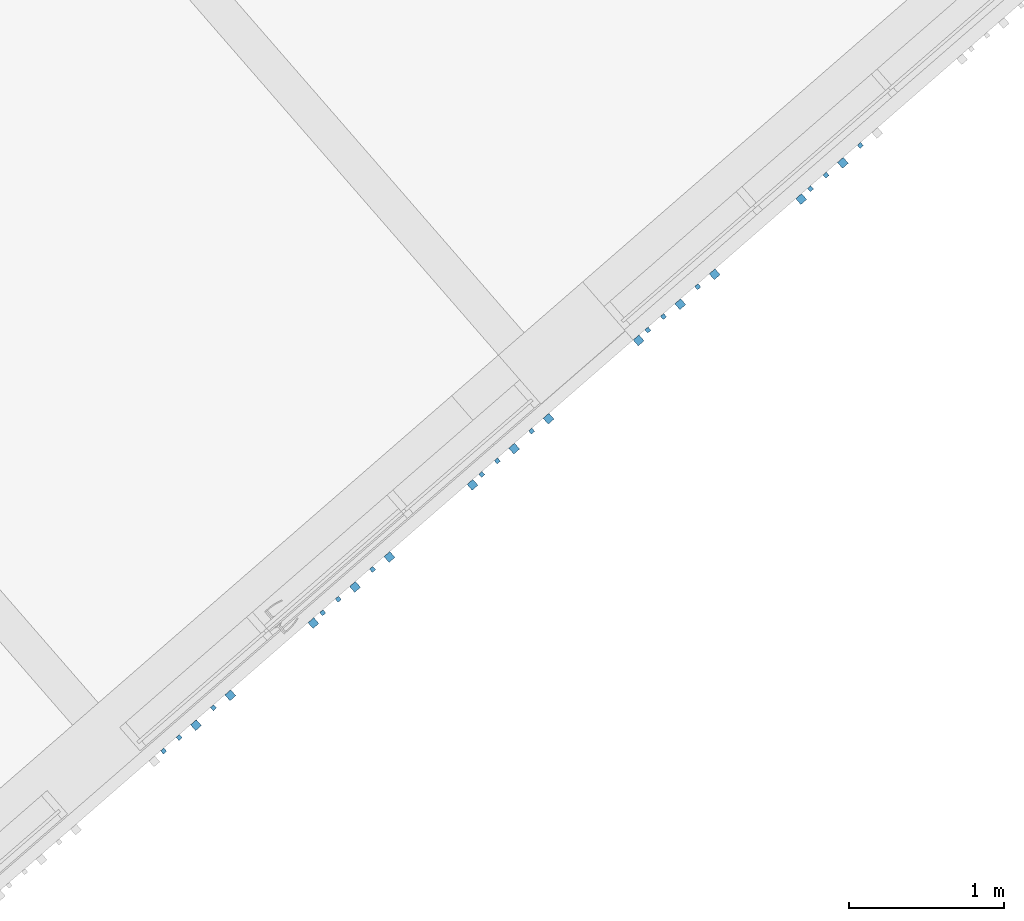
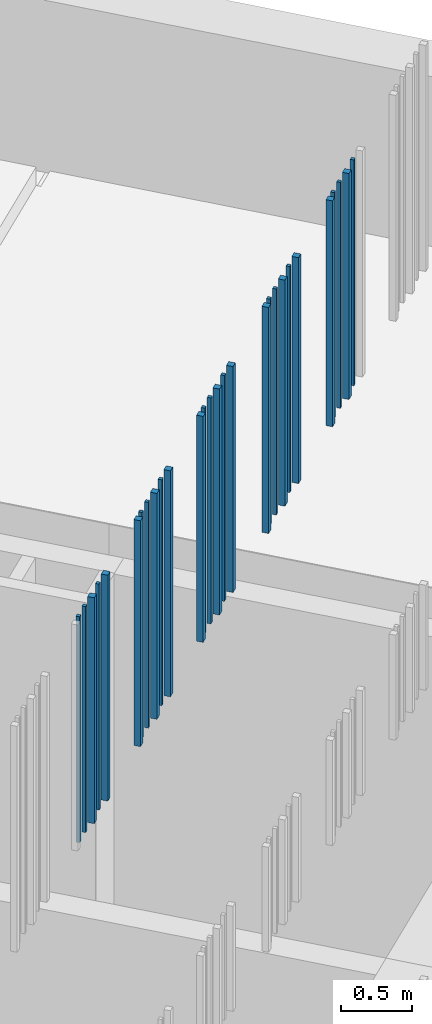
# One storey, part 70 of 124: 28 walls.
"""IFC2X3 building model written with IfcOpenShell, lengths in millimetres."""

from ifc_helpers import new_model, entity, si_unit, converted_unit, derived_unit, money_unit, direction, frame, origin_with_axes, place, context, subcontext, project, spatial, faceted_brep, material, type_object, element, save


model = new_model("IFC2X3")

# Units and contexts
model_context = context("Model", 3, precision=1e-05, world=origin_with_axes(), true_north=direction((0.0, 1.0)))
body_context = subcontext(model_context, "Body", "Model", "MODEL_VIEW")
ifc_project = project(units=[si_unit("LENGTHUNIT", "METRE", prefix="MILLI"), si_unit("AREAUNIT", "SQUARE_METRE"), si_unit("VOLUMEUNIT", "CUBIC_METRE"), converted_unit("PLANEANGLEUNIT", "DEGREE", entity("IfcPlaneAngleMeasure", 0.0174532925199), si_unit("PLANEANGLEUNIT", "RADIAN"), dimensions=[0, 0, 0, 0, 0, 0, 0]), si_unit("SOLIDANGLEUNIT", "STERADIAN"), money_unit("EUR"), converted_unit("TIMEUNIT", "Year", entity("IfcTimeMeasure", 31556926.0), si_unit("TIMEUNIT", "SECOND"), dimensions=[0, 0, 1, 0, 0, 0, 0]), si_unit("MASSUNIT", "GRAM", prefix="KILO"), si_unit("THERMODYNAMICTEMPERATUREUNIT", "DEGREE_CELSIUS"), si_unit("LUMINOUSINTENSITYUNIT", "LUMEN"), si_unit("ENERGYUNIT", "JOULE", prefix="MEGA"), derived_unit("THERMALCONDUCTANCEUNIT", [(si_unit("POWERUNIT", "WATT"), 1), (si_unit("LENGTHUNIT", "METRE"), -1), (si_unit("THERMODYNAMICTEMPERATUREUNIT", "KELVIN"), -1)]), derived_unit("SPECIFICHEATCAPACITYUNIT", [(si_unit("ENERGYUNIT", "JOULE"), 1), (si_unit("MASSUNIT", "GRAM", prefix="KILO"), -1), (si_unit("THERMODYNAMICTEMPERATUREUNIT", "KELVIN"), -1)]), derived_unit("MASSDENSITYUNIT", [(si_unit("MASSUNIT", "GRAM", prefix="KILO"), 1), (si_unit("VOLUMEUNIT", "CUBIC_METRE"), -1)])], contexts=[model_context])

# Site, building, storey
site_placement = place(None, origin_with_axes())
site = spatial("IfcSite", under=ifc_project, at=site_placement, Name="Site", CompositionType="ELEMENT")
building_placement = place(site_placement, origin_with_axes())
building = spatial("IfcBuilding", under=site, at=building_placement, Name="Building", CompositionType="ELEMENT")
storey_placement = place(building_placement, frame((0.0, 0.0, -1615.0), z_axis=(0.0, 0.0, 1.0), x_axis=(1.0, 0.0, 0.0)))
storey = spatial("IfcBuildingStorey", under=building, at=storey_placement, Name="0  korrus", CompositionType="ELEMENT", Elevation=-1615.0)

# Walls
ifc_material = material(Name="Site specified")
wall_type = type_object("IfcWallType", Name="Puitfassaadi ribistik", PredefinedType="NOTDEFINED")
for number, where, z_axis, x_axis, name in (
    (1, (164339.381525, 87488.6615175, 9530.0), (0.0, 0.0, 1.0), (-0.754709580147, -0.656059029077, 0.0), "Site specified"),
    (2, (164608.062387, 87722.2222276, 9530.0), (0.0, 0.0, 1.0), (-0.754709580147, -0.656059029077, 0.0), "Site specified"),
):
    element("IfcWall", number, at=place(storey_placement, frame(where, z_axis=z_axis, x_axis=x_axis)), inside=storey, type_object=wall_type, material=ifc_material, Name=name, context=body_context, shape_type="Brep", body=[
        faceted_brep([(25.0, 25.0, 1950.0), (25.0, 25.0, 0.0), (-25.0, 25.0, 0.0), (-25.0, 25.0, 1950.0), (25.0, -25.0, 1950.0), (25.0, -25.0, 0.0), (-25.0, -25.0, 0.0), (-25.0, -25.0, 1950.0)], [[[0, 1, 2, 3]], [[4, 5, 1, 0]], [[2, 1, 5, 6]], [[3, 2, 6, 7]], [[4, 0, 3, 7]], [[7, 6, 5, 4]]]),
    ])
wall_1_placement = place(storey_placement, frame((163694.437651, 86942.5955039, 9530.0), z_axis=(0.0, 0.0, 1.0), x_axis=(-0.754709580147, -0.656059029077, 0.0)))
element("IfcWall", 3, at=wall_1_placement, inside=storey, type_object=wall_type, material=ifc_material, Name="Site specified", context=body_context, shape_type="Brep", body=[
    faceted_brep([(14.0, 14.0, 1950.0), (14.0, 14.0, 0.0), (-14.0, 14.0, 0.0), (-14.0, 14.0, 1950.0), (14.0, -14.0, 1950.0), (14.0, -14.0, 0.0), (-14.0, -14.0, 0.0), (-14.0, -14.0, 1950.0)], [[[0, 1, 2, 3]], [[4, 5, 1, 0]], [[2, 1, 5, 6]], [[3, 2, 6, 7]], [[4, 0, 3, 7]], [[7, 6, 5, 4]]]),
])
wall_2_placement = place(storey_placement, frame((164829.947002, 87915.1035807, 9530.0), z_axis=(0.0, 0.0, 1.0), x_axis=(-0.754709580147, -0.656059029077, 0.0)))
element("IfcWall", 4, at=wall_2_placement, inside=storey, type_object=wall_type, material=ifc_material, Name="Site specified", context=body_context, shape_type="Brep", body=[
    faceted_brep([(25.0, 25.0, 1950.0), (25.0, 25.0, 0.0), (-25.0, 25.0, 0.0), (-25.0, 25.0, 1950.0), (25.0, -25.0, 1950.0), (25.0, -25.0, 0.0), (-25.0, -25.0, 0.0), (-25.0, -25.0, 1950.0)], [[[0, 1, 2, 3]], [[4, 5, 1, 0]], [[2, 1, 5, 6]], [[3, 2, 6, 7]], [[4, 0, 3, 7]], [[7, 6, 5, 4]]]),
])
for number, where, z_axis, x_axis, name in (
    (5, (164499.712794, 87642.6105067, 9530.0), (0.0, 0.0, 1.0), (-0.754709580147, -0.656059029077, 0.0), "Site specified"),
    (6, (164720.84268, 87834.8357833, 9530.0), (0.0, 0.0, 1.0), (-0.754709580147, -0.656059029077, 0.0), "Site specified"),
    (7, (164399.336421, 87555.3546564, 9530.0), (0.0, 0.0, 1.0), (-0.754709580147, -0.656059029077, 0.0), "Site specified"),
):
    element("IfcWall", number, at=place(storey_placement, frame(where, z_axis=z_axis, x_axis=x_axis)), inside=storey, type_object=wall_type, material=ifc_material, Name=name, context=body_context, shape_type="Brep", body=[
        faceted_brep([(14.0, 14.0, 1950.0), (14.0, 14.0, 0.0), (-14.0, 14.0, 0.0), (-14.0, 14.0, 1950.0), (14.0, -14.0, 1950.0), (14.0, -14.0, 0.0), (-14.0, -14.0, 0.0), (-14.0, -14.0, 1950.0)], [[[0, 1, 2, 3]], [[4, 5, 1, 0]], [[2, 1, 5, 6]], [[3, 2, 6, 7]], [[4, 0, 3, 7]], [[7, 6, 5, 4]]]),
    ])
wall_3_placement = place(storey_placement, frame((163803.541973, 87022.8633013, 9530.0), z_axis=(0.0, 0.0, 1.0), x_axis=(-0.754709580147, -0.656059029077, 0.0)))
element("IfcWall", 8, at=wall_3_placement, inside=storey, type_object=wall_type, material=ifc_material, Name="Site specified", context=body_context, shape_type="Brep", body=[
    faceted_brep([(25.0, 25.0, 1950.0), (25.0, 25.0, 0.0), (-25.0, 25.0, 0.0), (-25.0, 25.0, 1950.0), (25.0, -25.0, 1950.0), (25.0, -25.0, 0.0), (-25.0, -25.0, 0.0), (-25.0, -25.0, 1950.0)], [[[0, 1, 2, 3]], [[4, 5, 1, 0]], [[2, 1, 5, 6]], [[3, 2, 6, 7]], [[4, 0, 3, 7]], [[7, 6, 5, 4]]]),
])
wall_4_placement = place(storey_placement, frame((163473.307765, 86750.3702273, 9530.0), z_axis=(0.0, 0.0, 1.0), x_axis=(-0.754709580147, -0.656059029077, 0.0)))
element("IfcWall", 9, at=wall_4_placement, inside=storey, type_object=wall_type, material=ifc_material, Name="Site specified", context=body_context, shape_type="Brep", body=[
    faceted_brep([(14.0, 14.0, 1950.0), (14.0, 14.0, 0.0), (-14.0, 14.0, 0.0), (-14.0, 14.0, 1950.0), (14.0, -14.0, 1950.0), (14.0, -14.0, 0.0), (-14.0, -14.0, 0.0), (-14.0, -14.0, 1950.0)], [[[0, 1, 2, 3]], [[4, 5, 1, 0]], [[2, 1, 5, 6]], [[3, 2, 6, 7]], [[4, 0, 3, 7]], [[7, 6, 5, 4]]]),
])
wall_5_placement = place(storey_placement, frame((163581.657358, 86829.9819482, 9530.0), z_axis=(0.0, 0.0, 1.0), x_axis=(-0.754709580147, -0.656059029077, 0.0)))
element("IfcWall", 10, at=wall_5_placement, inside=storey, type_object=wall_type, material=ifc_material, Name="Site specified", context=body_context, shape_type="Brep", body=[
    faceted_brep([(25.0, 25.0, 1950.0), (25.0, 25.0, 0.0), (-25.0, 25.0, 0.0), (-25.0, 25.0, 1950.0), (25.0, -25.0, 1950.0), (25.0, -25.0, 0.0), (-25.0, -25.0, 0.0), (-25.0, -25.0, 1950.0)], [[[0, 1, 2, 3]], [[4, 5, 1, 0]], [[2, 1, 5, 6]], [[3, 2, 6, 7]], [[4, 0, 3, 7]], [[7, 6, 5, 4]]]),
])
for number, where, z_axis, x_axis, name in (
    (11, (165425.727466, 88447.5827786, 9530.0), (0.0, 0.0, 1.0), (-0.754709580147, -0.656059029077, 0.0), "Site specified"),
    (12, (165526.10384, 88534.8386289, 9530.0), (0.0, 0.0, 1.0), (-0.754709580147, -0.656059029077, 0.0), "Site specified"),
):
    element("IfcWall", number, at=place(storey_placement, frame(where, z_axis=z_axis, x_axis=x_axis)), inside=storey, type_object=wall_type, material=ifc_material, Name=name, context=body_context, shape_type="Brep", body=[
        faceted_brep([(14.0, 14.0, 1950.0), (14.0, 14.0, 0.0), (-14.0, 14.0, 0.0), (-14.0, 14.0, 1950.0), (14.0, -14.0, 1950.0), (14.0, -14.0, 0.0), (-14.0, -14.0, 0.0), (-14.0, -14.0, 1950.0)], [[[0, 1, 2, 3]], [[4, 5, 1, 0]], [[2, 1, 5, 6]], [[3, 2, 6, 7]], [[4, 0, 3, 7]], [[7, 6, 5, 4]]]),
    ])
for number, where, z_axis, x_axis, name in (
    (13, (165365.77257, 88380.8896396, 9530.0), (0.0, 0.0, 1.0), (-0.754709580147, -0.656059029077, 0.0), "Site specified"),
    (14, (165634.453432, 88614.4503497, 9530.0), (0.0, 0.0, 1.0), (-0.754709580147, -0.656059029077, 0.0), "Site specified"),
    (15, (165856.338047, 88807.3317028, 9530.0), (0.0, 0.0, 1.0), (-0.754709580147, -0.656059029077, 0.0), "Site specified"),
):
    element("IfcWall", number, at=place(storey_placement, frame(where, z_axis=z_axis, x_axis=x_axis)), inside=storey, type_object=wall_type, material=ifc_material, Name=name, context=body_context, shape_type="Brep", body=[
        faceted_brep([(25.0, 25.0, 1950.0), (25.0, 25.0, 0.0), (-25.0, 25.0, 0.0), (-25.0, 25.0, 1950.0), (25.0, -25.0, 1950.0), (25.0, -25.0, 0.0), (-25.0, -25.0, 0.0), (-25.0, -25.0, 1950.0)], [[[0, 1, 2, 3]], [[4, 5, 1, 0]], [[2, 1, 5, 6]], [[3, 2, 6, 7]], [[4, 0, 3, 7]], [[7, 6, 5, 4]]]),
    ])
for number, where, z_axis, x_axis, name in (
    (16, (165747.233725, 88727.0639054, 9530.0), (0.0, 0.0, 1.0), (-0.754709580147, -0.656059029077, 0.0), "Site specified"),
    (17, (163372.931392, 86663.114377, 9530.0), (0.0, 0.0, 1.0), (-0.754709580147, -0.656059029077, 0.0), "Site specified"),
):
    element("IfcWall", number, at=place(storey_placement, frame(where, z_axis=z_axis, x_axis=x_axis)), inside=storey, type_object=wall_type, material=ifc_material, Name=name, context=body_context, shape_type="Brep", body=[
        faceted_brep([(14.0, 14.0, 1950.0), (14.0, 14.0, 0.0), (-14.0, 14.0, 0.0), (-14.0, 14.0, 1950.0), (14.0, -14.0, 1950.0), (14.0, -14.0, 0.0), (-14.0, -14.0, 0.0), (-14.0, -14.0, 1950.0)], [[[0, 1, 2, 3]], [[4, 5, 1, 0]], [[2, 1, 5, 6]], [[3, 2, 6, 7]], [[4, 0, 3, 7]], [[7, 6, 5, 4]]]),
    ])
wall_6_placement = place(storey_placement, frame((166928.025894, 89738.9357356, 9530.0), z_axis=(0.0, 0.0, 1.0), x_axis=(-0.754709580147, -0.656059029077, 0.0)))
element("IfcWall", 18, at=wall_6_placement, inside=storey, type_object=wall_type, material=ifc_material, Name="Site specified", context=body_context, shape_type="Brep", body=[
    faceted_brep([(25.0, 25.0, 1950.0), (25.0, 25.0, 0.0), (-25.0, 25.0, 0.0), (-25.0, 25.0, 1950.0), (25.0, -25.0, 1950.0), (25.0, -25.0, 0.0), (-25.0, -25.0, 0.0), (-25.0, -25.0, 1950.0)], [[[0, 1, 2, 3]], [[4, 5, 1, 0]], [[2, 1, 5, 6]], [[3, 2, 6, 7]], [[4, 0, 3, 7]], [[7, 6, 5, 4]]]),
])
for number, where, z_axis, x_axis, name in (
    (19, (166818.921572, 89658.6679382, 9530.0), (0.0, 0.0, 1.0), (-0.754709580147, -0.656059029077, 0.0), "Site specified"),
    (20, (166497.415313, 89379.1868113, 9530.0), (0.0, 0.0, 1.0), (-0.754709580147, -0.656059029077, 0.0), "Site specified"),
    (21, (166597.791687, 89466.4426616, 9530.0), (0.0, 0.0, 1.0), (-0.754709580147, -0.656059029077, 0.0), "Site specified"),
):
    element("IfcWall", number, at=place(storey_placement, frame(where, z_axis=z_axis, x_axis=x_axis)), inside=storey, type_object=wall_type, material=ifc_material, Name=name, context=body_context, shape_type="Brep", body=[
        faceted_brep([(14.0, 14.0, 1950.0), (14.0, 14.0, 0.0), (-14.0, 14.0, 0.0), (-14.0, 14.0, 1950.0), (14.0, -14.0, 1950.0), (14.0, -14.0, 0.0), (-14.0, -14.0, 0.0), (-14.0, -14.0, 1950.0)], [[[0, 1, 2, 3]], [[4, 5, 1, 0]], [[2, 1, 5, 6]], [[3, 2, 6, 7]], [[4, 0, 3, 7]], [[7, 6, 5, 4]]]),
    ])
for number, where, z_axis, x_axis, name in (
    (22, (166706.141279, 89546.0543825, 9530.0), (0.0, 0.0, 1.0), (-0.754709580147, -0.656059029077, 0.0), "Site specified"),
    (23, (166437.460417, 89312.4936724, 9530.0), (0.0, 0.0, 1.0), (-0.754709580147, -0.656059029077, 0.0), "Site specified"),
):
    element("IfcWall", number, at=place(storey_placement, frame(where, z_axis=z_axis, x_axis=x_axis)), inside=storey, type_object=wall_type, material=ifc_material, Name=name, context=body_context, shape_type="Brep", body=[
        faceted_brep([(25.0, 25.0, 1950.0), (25.0, 25.0, 0.0), (-25.0, 25.0, 0.0), (-25.0, 25.0, 1950.0), (25.0, -25.0, 1950.0), (25.0, -25.0, 0.0), (-25.0, -25.0, 0.0), (-25.0, -25.0, 1950.0)], [[[0, 1, 2, 3]], [[4, 5, 1, 0]], [[2, 1, 5, 6]], [[3, 2, 6, 7]], [[4, 0, 3, 7]], [[7, 6, 5, 4]]]),
    ])
for number, where, z_axis, x_axis, name in (
    (24, (167867.968132, 90570.5902, 9530.0), (0.0, 0.0, 1.0), (-0.754709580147, -0.656059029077, 0.0), "Site specified"),
    (25, (167546.461873, 90291.1090731, 9530.0), (0.0, 0.0, 1.0), (-0.754709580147, -0.656059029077, 0.0), "Site specified"),
    (26, (167646.838247, 90378.3649234, 9530.0), (0.0, 0.0, 1.0), (-0.754709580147, -0.656059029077, 0.0), "Site specified"),
):
    element("IfcWall", number, at=place(storey_placement, frame(where, z_axis=z_axis, x_axis=x_axis)), inside=storey, type_object=wall_type, material=ifc_material, Name=name, context=body_context, shape_type="Brep", body=[
        faceted_brep([(14.0, 14.0, 1950.0), (14.0, 14.0, 0.0), (-14.0, 14.0, 0.0), (-14.0, 14.0, 1950.0), (14.0, -14.0, 1950.0), (14.0, -14.0, 0.0), (-14.0, -14.0, 0.0), (-14.0, -14.0, 1950.0)], [[[0, 1, 2, 3]], [[4, 5, 1, 0]], [[2, 1, 5, 6]], [[3, 2, 6, 7]], [[4, 0, 3, 7]], [[7, 6, 5, 4]]]),
    ])
for number, where, z_axis, x_axis, name in (
    (27, (167486.506977, 90224.4159342, 9530.0), (0.0, 0.0, 1.0), (-0.754709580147, -0.656059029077, 0.0), "Site specified"),
    (28, (167755.187839, 90457.9766443, 9530.0), (0.0, 0.0, 1.0), (-0.754709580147, -0.656059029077, 0.0), "Site specified"),
):
    element("IfcWall", number, at=place(storey_placement, frame(where, z_axis=z_axis, x_axis=x_axis)), inside=storey, type_object=wall_type, material=ifc_material, Name=name, context=body_context, shape_type="Brep", body=[
        faceted_brep([(25.0, 25.0, 1950.0), (25.0, 25.0, 0.0), (-25.0, 25.0, 0.0), (-25.0, 25.0, 1950.0), (25.0, -25.0, 1950.0), (25.0, -25.0, 0.0), (-25.0, -25.0, 0.0), (-25.0, -25.0, 1950.0)], [[[0, 1, 2, 3]], [[4, 5, 1, 0]], [[2, 1, 5, 6]], [[3, 2, 6, 7]], [[4, 0, 3, 7]], [[7, 6, 5, 4]]]),
    ])

save(model, "model.ifc")
